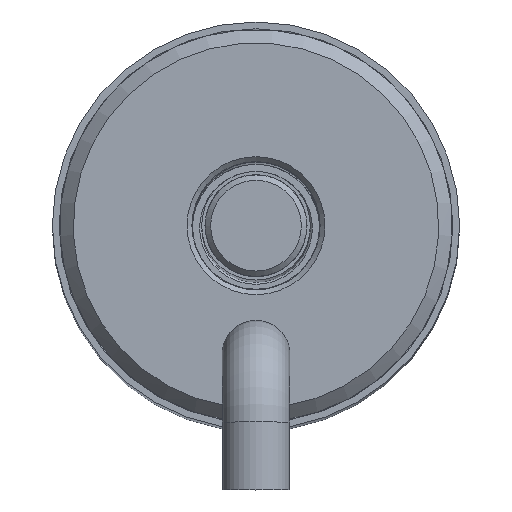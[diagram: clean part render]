
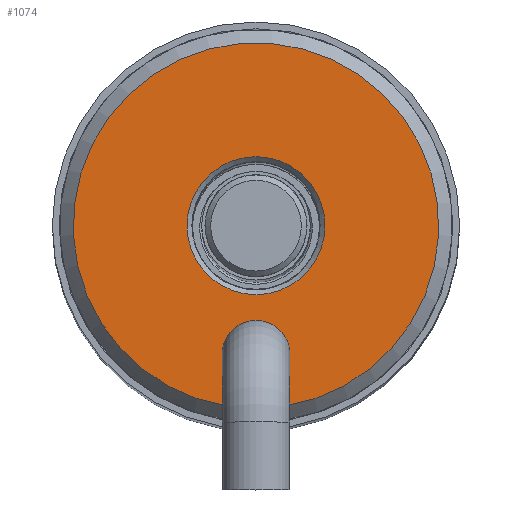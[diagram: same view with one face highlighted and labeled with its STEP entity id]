
A CAD part, top view. The second image highlights one B-rep face of the part: STEP entity #1074.
In plain terms, the highlighted planar face has unit normal (0, 0, 1).
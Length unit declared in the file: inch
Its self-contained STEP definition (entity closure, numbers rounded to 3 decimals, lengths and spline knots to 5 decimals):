
#78=FACE_BOUND('',#214,.T.);
#116=PLANE('',#1254);
#145=FACE_OUTER_BOUND('',#213,.T.);
#213=EDGE_LOOP('',(#719,#720,#721,#722,#723));
#214=EDGE_LOOP('',(#724));
#294=LINE('',#1700,#344);
#297=LINE('',#1710,#347);
#344=VECTOR('',#1401,0.3937);
#347=VECTOR('',#1406,0.3937);
#396=CIRCLE('',#1249,0.0625);
#398=CIRCLE('',#1251,0.0625);
#399=CIRCLE('',#1255,0.3365);
#400=CIRCLE('',#1256,0.127);
#448=VERTEX_POINT('',#1686);
#449=VERTEX_POINT('',#1688);
#452=VERTEX_POINT('',#1694);
#453=VERTEX_POINT('',#1699);
#456=VERTEX_POINT('',#1709);
#457=VERTEX_POINT('',#1712);
#550=EDGE_CURVE('',#449,#448,#396,.T.);
#554=EDGE_CURVE('',#448,#452,#398,.T.);
#555=EDGE_CURVE('',#453,#449,#294,.T.);
#559=EDGE_CURVE('',#452,#456,#297,.T.);
#560=EDGE_CURVE('',#453,#456,#399,.T.);
#561=EDGE_CURVE('',#457,#457,#400,.T.);
#719=ORIENTED_EDGE('',*,*,#550,.T.);
#720=ORIENTED_EDGE('',*,*,#554,.T.);
#721=ORIENTED_EDGE('',*,*,#559,.T.);
#722=ORIENTED_EDGE('',*,*,#560,.F.);
#723=ORIENTED_EDGE('',*,*,#555,.T.);
#724=ORIENTED_EDGE('',*,*,#561,.T.);
#1074=ADVANCED_FACE('',(#145,#78),#116,.T.);
#1249=AXIS2_PLACEMENT_3D('',#1689,#1389,#1390);
#1251=AXIS2_PLACEMENT_3D('',#1696,#1395,#1396);
#1254=AXIS2_PLACEMENT_3D('',#1708,#1404,#1405);
#1255=AXIS2_PLACEMENT_3D('',#1711,#1407,#1408);
#1256=AXIS2_PLACEMENT_3D('',#1713,#1409,#1410);
#1389=DIRECTION('center_axis',(0.,0.,
-1.));
#1390=DIRECTION('ref_axis',(1.,0.,0.));
#1395=DIRECTION('center_axis',(0.,0.,
-1.));
#1396=DIRECTION('ref_axis',(1.,0.,0.));
#1401=DIRECTION('',(0.,1.,0.));
#1404=DIRECTION('center_axis',(0.,0.,
1.));
#1405=DIRECTION('ref_axis',(1.,0.,0.));
#1406=DIRECTION('',(0.,-1.,0.));
#1407=DIRECTION('center_axis',(0.,0.,
-1.));
#1408=DIRECTION('ref_axis',(-1.,0.,0.));
#1409=DIRECTION('center_axis',(0.,0.,
-1.));
#1410=DIRECTION('ref_axis',(-1.,0.,0.));
#1686=CARTESIAN_POINT('',(-0.0625,-0.237,2.37));
#1688=CARTESIAN_POINT('',(-0.053,-0.27012,2.37));
#1689=CARTESIAN_POINT('Origin',(0.,-0.237,2.37));
#1694=CARTESIAN_POINT('',(0.053,-0.27012,2.37));
#1696=CARTESIAN_POINT('Origin',(0.,-0.237,2.37));
#1699=CARTESIAN_POINT('',(-0.053,-0.3323,2.37));
#1700=CARTESIAN_POINT('',(-0.053,0.04975,2.37));
#1708=CARTESIAN_POINT('Origin',(0.,0.3365,2.37));
#1709=CARTESIAN_POINT('',(0.053,-0.3323,2.37));
#1710=CARTESIAN_POINT('',(0.053,-0.01055,2.37));
#1711=CARTESIAN_POINT('Origin',(0.,0.,
2.37));
#1712=CARTESIAN_POINT('',(0.,-0.127,2.37));
#1713=CARTESIAN_POINT('Origin',(0.,0.,
2.37));
